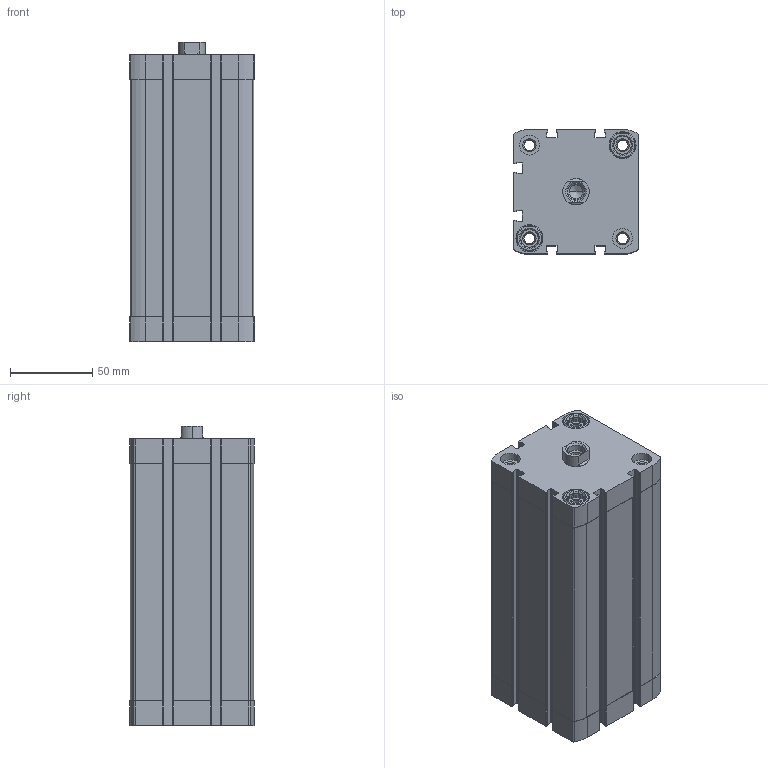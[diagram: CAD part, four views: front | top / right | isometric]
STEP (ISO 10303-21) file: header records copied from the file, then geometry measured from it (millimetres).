
FILE_DESCRIPTION (( 'STEP AP203' ), '1' );
FILE_NAME ('CCN63-125F.STEP', '2017-04-05T16:23:33', ( '' ), ( '' ), 'SwSTEP 2.0', 'SolidWorks 2016', '' );
FILE_SCHEMA (( 'CONFIG_CONTROL_DESIGN' ));
Length unit declared in the file: millimetre
Products named in the file (3): CCN-125---(Z); CCN-125_(KS); CCN63-125F
Assembly tree (2 placements, depth 2):
  CCN63-125F
    CCN-125---(Z)
    CCN-125_(KS)
Bounding box: 75.5 x 75.5 x 181.5 mm (x, y, z)
Volume: 546881.3 mm3; surface area: 145350.4 mm2
Topology: 2 solids, 2 shells, 471 faces, 1274 edges, 837 vertices
Faces by surface type: plane 219, cylinder 210, cone 42
Entity records: 15309 total; most frequent: CARTESIAN_POINT 2879, DIRECTION 2596, ORIENTED_EDGE 2544, EDGE_CURVE 1272, AXIS2_PLACEMENT_3D 946, VERTEX_POINT 837, VECTOR 704, LINE 704
